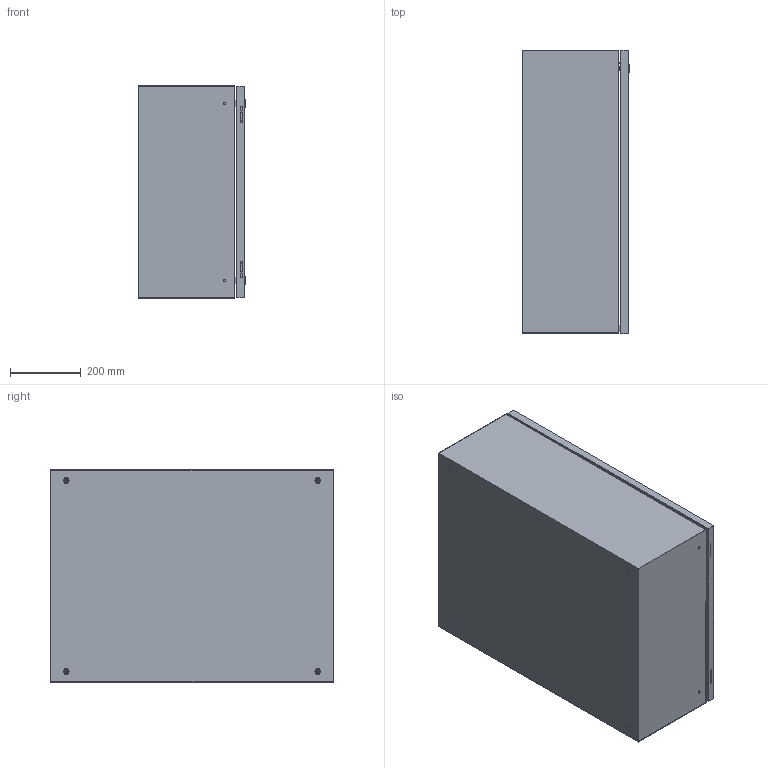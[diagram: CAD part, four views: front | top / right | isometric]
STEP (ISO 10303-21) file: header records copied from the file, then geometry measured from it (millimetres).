
FILE_DESCRIPTION(/* description */ ('Unknown'),/* implementation_level */ '2;1');
FILE_NAME(/* name */ 'CCA08006030',/* time_stamp */ '2024-08-01T10:11:59+02:00',/* author */ ('Unknown'),/* organization */ ('Unknown'),/* preprocessor_version */ 'ST-DEVELOPER v19.4',/* originating_system */ 'Solid Edge',/* authorisation */ 'Unknown');
FILE_SCHEMA (('AUTOMOTIVE_DESIGN {1 0 10303 214 3 1 1}'));
Length unit declared in the file: millimetre
Products named in the file (16): CCA08006030; C000X001.42_oa_0; C000X001.43_oa_1; C0000001.35; C0000000.02; AE00198.02; AE00989.09; AE00417.01; C000X001.41_oa_2; C0000001.34; C0000000.04; C0000000.05; AE00316.01; AE00601.01; AE00891.02; C0000000.01
Assembly tree (35 placements, depth 4):
  CCA08006030
    C000X001.42_oa_0
      C000X001.43_oa_1
        C0000001.35
      C0000000.02  x2
      AE00198.02  x2
      AE00989.09  x2
      AE00417.01  x2
    AE00198.02  x2
    C000X001.41_oa_2
      C0000001.34
      C0000000.04  x4
      C0000000.05  x4
      AE00316.01  x2
      AE00601.01  x2
      AE00891.02  x2
      C0000000.01  x2
      AE00417.01  x4
Bounding box: 305 x 800 x 600 mm (x, y, z)
Volume: 3085998.1 mm3; surface area: 3709446.7 mm2
Topology: 34 solids, 34 shells, 666 faces, 1620 edges, 1054 vertices
Faces by surface type: plane 434, cylinder 162, cone 36, torus 34
Full cylindrical faces by diameter (mm): 4 x2, 4.917 x6, 4.918 x2, 5.4 x2, 6 x14, 6.4 x2, 7.5 x6, 8 x4, 8.376 x8, 10 x6, 10.25 x4, 10.5 x4, 11 x2, 13.6 x2, 14 x4, 15 x4, 16 x4, 16.3 x2, 19.5 x2, 28 x2
Entity records: 11377 total; most frequent: CARTESIAN_POINT 1749, DIRECTION 1672, ORIENTED_EDGE 1540, EDGE_CURVE 770, AXIS2_PLACEMENT_3D 560, LINE 552, VECTOR 552, VERTEX_POINT 528
